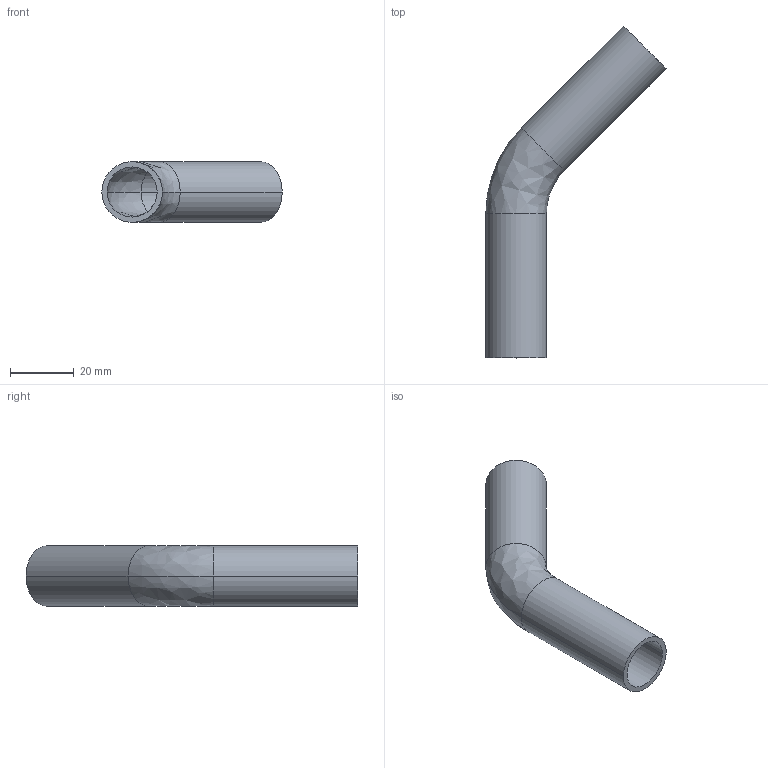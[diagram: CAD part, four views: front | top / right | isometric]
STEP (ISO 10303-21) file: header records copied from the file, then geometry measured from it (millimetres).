
FILE_DESCRIPTION (( 'STEP AP214' ), '1' );
FILE_NAME ('TE2KS6L.75-...STEP', '2016-05-22T06:44:22', ( 'eran' ), ( '' ), 'SwSTEP 2.0', 'SolidWorks 2016', '' );
FILE_SCHEMA (( 'AUTOMOTIVE_DESIGN' ));
Length unit declared in the file: millimetre
Products named in the file (1): TE2KS6L.75-..
Bounding box: 56.71 x 104.38 x 19.05 mm (x, y, z)
Volume: 10207.3 mm3; surface area: 12552.9 mm2
Topology: 1 solids, 1 shells, 14 faces, 28 edges, 16 vertices
Faces by surface type: cylinder 8, bspline 4, plane 2
Entity records: 450 total; most frequent: CARTESIAN_POINT 119, DIRECTION 70, ORIENTED_EDGE 56, AXIS2_PLACEMENT_3D 31, EDGE_CURVE 28, CIRCLE 20, EDGE_LOOP 16, VERTEX_POINT 16
